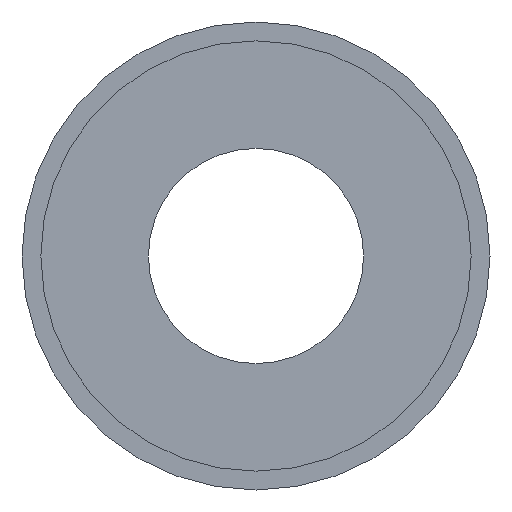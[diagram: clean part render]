
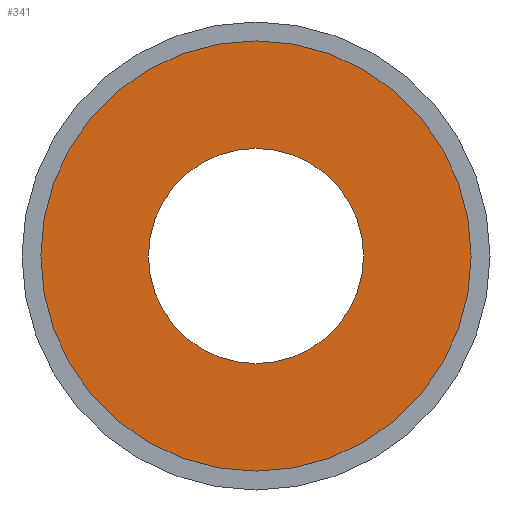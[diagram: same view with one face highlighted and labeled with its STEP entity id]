
A CAD part, front view. The second image highlights one B-rep face of the part: STEP entity #341.
In plain terms, the highlighted planar face has unit normal (0, -1, 0).
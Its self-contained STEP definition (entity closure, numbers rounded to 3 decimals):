
#15 = VERTEX_POINT ( 'NONE', #1057 ) ;
#121 = ORIENTED_EDGE ( 'NONE', *, *, #2207, .F. ) ;
#233 = VERTEX_POINT ( 'NONE', #343 ) ;
#341 = ADVANCED_FACE ( 'NONE', ( #1260, #665 ), #957, .F. ) ;
#343 = CARTESIAN_POINT ( 'NONE',  ( 0., -16.5, -20. ) ) ;
#515 = ORIENTED_EDGE ( 'NONE', *, *, #2528, .T. ) ;
#665 = FACE_OUTER_BOUND ( 'NONE', #1488, .T. ) ;
#766 = CARTESIAN_POINT ( 'NONE',  ( 0., -16.5, 0. ) ) ;
#873 = AXIS2_PLACEMENT_3D ( 'NONE', #2048, #2553, #2810 ) ;
#957 = PLANE ( 'NONE',  #2994 ) ;
#1001 = CIRCLE ( 'NONE', #1859, 20. ) ;
#1011 = ORIENTED_EDGE ( 'NONE', *, *, #3031, .T. ) ;
#1054 = CARTESIAN_POINT ( 'NONE',  ( 0., -16.5, 20. ) ) ;
#1057 = CARTESIAN_POINT ( 'NONE',  ( 0., -16.5, -40. ) ) ;
#1087 = EDGE_CURVE ( 'NONE', #1554, #233, #2116, .T. ) ;
#1220 = EDGE_LOOP ( 'NONE', ( #121, #1763 ) ) ;
#1237 = DIRECTION ( 'NONE',  ( 0., 0., -1. ) ) ;
#1260 = FACE_BOUND ( 'NONE', #1220, .T. ) ;
#1460 = DIRECTION ( 'NONE',  ( 0., 1., 0. ) ) ;
#1475 = CARTESIAN_POINT ( 'NONE',  ( 0., -16.5, 40. ) ) ;
#1488 = EDGE_LOOP ( 'NONE', ( #515, #1011 ) ) ;
#1554 = VERTEX_POINT ( 'NONE', #1054 ) ;
#1664 = CARTESIAN_POINT ( 'NONE',  ( 0., -16.5, 20. ) ) ;
#1763 = ORIENTED_EDGE ( 'NONE', *, *, #1087, .F. ) ;
#1777 = CIRCLE ( 'NONE', #1841, 40. ) ;
#1808 = VERTEX_POINT ( 'NONE', #1475 ) ;
#1841 = AXIS2_PLACEMENT_3D ( 'NONE', #766, #3004, #2764 ) ;
#1859 = AXIS2_PLACEMENT_3D ( 'NONE', #3153, #2133, #2381 ) ;
#1898 = CIRCLE ( 'NONE', #3024, 40. ) ;
#2048 = CARTESIAN_POINT ( 'NONE',  ( 0., -16.5, 0. ) ) ;
#2116 = CIRCLE ( 'NONE', #873, 20. ) ;
#2133 = DIRECTION ( 'NONE',  ( 0., -1., 0. ) ) ;
#2207 = EDGE_CURVE ( 'NONE', #233, #1554, #1001, .T. ) ;
#2381 = DIRECTION ( 'NONE',  ( 0., 0., -1. ) ) ;
#2528 = EDGE_CURVE ( 'NONE', #15, #1808, #1777, .T. ) ;
#2553 = DIRECTION ( 'NONE',  ( 0., -1., 0. ) ) ;
#2750 = CARTESIAN_POINT ( 'NONE',  ( 0., -16.5, 0. ) ) ;
#2764 = DIRECTION ( 'NONE',  ( 0., 0., -1. ) ) ;
#2810 = DIRECTION ( 'NONE',  ( 0., 0., -1. ) ) ;
#2994 = AXIS2_PLACEMENT_3D ( 'NONE', #1664, #1460, #3178 ) ;
#2995 = DIRECTION ( 'NONE',  ( 0., -1., 0. ) ) ;
#3004 = DIRECTION ( 'NONE',  ( 0., -1., 0. ) ) ;
#3024 = AXIS2_PLACEMENT_3D ( 'NONE', #2750, #2995, #1237 ) ;
#3031 = EDGE_CURVE ( 'NONE', #1808, #15, #1898, .T. ) ;
#3153 = CARTESIAN_POINT ( 'NONE',  ( 0., -16.5, 0. ) ) ;
#3178 = DIRECTION ( 'NONE',  ( 0., 0., 1. ) ) ;
